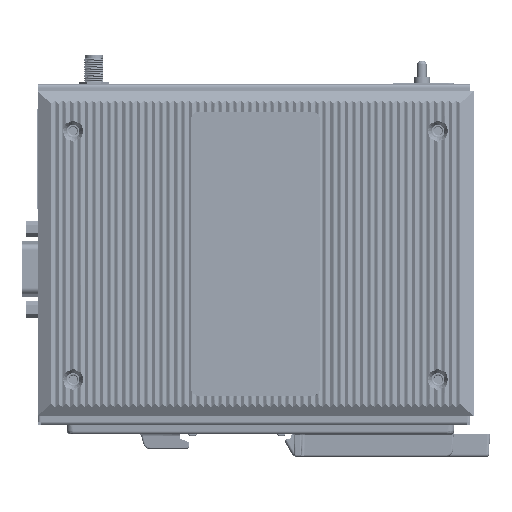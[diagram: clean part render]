
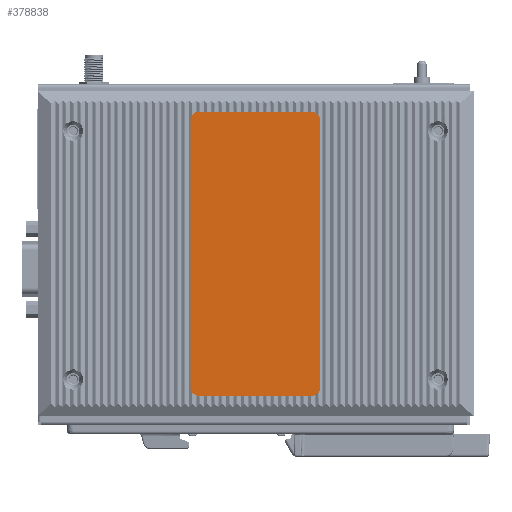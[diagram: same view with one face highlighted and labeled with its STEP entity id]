
A CAD part, front view. The second image highlights one B-rep face of the part: STEP entity #378838.
In plain terms, the highlighted planar face has unit normal (0, -1, 0).
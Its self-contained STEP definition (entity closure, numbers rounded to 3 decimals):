
#372567=DIRECTION('',(0.,0.,1.));
#372568=VECTOR('',#372567,83.);
#372569=CARTESIAN_POINT('',(-17.,-11.44,-43.75));
#372570=LINE('',#372569,#372568);
#372603=CARTESIAN_POINT('',(-14.5,-11.44,39.25));
#372604=DIRECTION('',(0.,-1.,0.));
#372605=DIRECTION('',(0.,0.,1.));
#372606=AXIS2_PLACEMENT_3D('',#372603,#372604,#372605);
#372608=DIRECTION('',(-1.,0.,0.));
#372609=VECTOR('',#372608,34.95);
#372610=CARTESIAN_POINT('',(20.45,-11.44,41.75));
#372611=LINE('',#372610,#372609);
#372612=CARTESIAN_POINT('',(20.45,-11.44,39.2));
#372613=DIRECTION('',(0.,-1.,0.));
#372614=DIRECTION('',(1.,0.,0.));
#372615=AXIS2_PLACEMENT_3D('',#372612,#372613,#372614);
#372617=DIRECTION('',(0.,0.,1.));
#372618=VECTOR('',#372617,82.95);
#372619=CARTESIAN_POINT('',(23.,-11.44,-43.75));
#372620=LINE('',#372619,#372618);
#372621=CARTESIAN_POINT('',(20.5,-11.44,-43.75));
#372622=DIRECTION('',(0.,-1.,0.));
#372623=DIRECTION('',(0.,0.,-1.));
#372624=AXIS2_PLACEMENT_3D('',#372621,#372622,#372623);
#372626=DIRECTION('',(1.,0.,0.));
#372627=VECTOR('',#372626,35.);
#372628=CARTESIAN_POINT('',(-14.5,-11.44,-46.25));
#372629=LINE('',#372628,#372627);
#372630=CARTESIAN_POINT('',(-14.5,-11.44,-43.75));
#372631=DIRECTION('',(0.,-1.,0.));
#372632=DIRECTION('',(-1.,0.,0.));
#372633=AXIS2_PLACEMENT_3D('',#372630,#372631,#372632);
#373569=CARTESIAN_POINT('',(20.45,-11.44,41.75));
#373570=VERTEX_POINT('',#373569);
#373572=CARTESIAN_POINT('',(20.5,-11.44,-46.25));
#373573=VERTEX_POINT('',#373572);
#373621=CARTESIAN_POINT('',(-14.5,-11.44,41.75));
#373622=VERTEX_POINT('',#373621);
#373634=CARTESIAN_POINT('',(-14.5,-11.44,-46.25));
#373635=VERTEX_POINT('',#373634);
#373682=CARTESIAN_POINT('',(23.,-11.44,39.2));
#373683=VERTEX_POINT('',#373682);
#373693=CARTESIAN_POINT('',(23.,-11.44,-43.75));
#373694=VERTEX_POINT('',#373693);
#373724=CARTESIAN_POINT('',(-17.,-11.44,39.25));
#373725=VERTEX_POINT('',#373724);
#373740=CARTESIAN_POINT('',(-17.,-11.44,-43.75));
#373741=VERTEX_POINT('',#373740);
#378823=CARTESIAN_POINT('',(3.,-11.44,-2.25));
#378824=DIRECTION('',(0.,-1.,0.));
#378825=DIRECTION('',(1.,0.,0.));
#378826=AXIS2_PLACEMENT_3D('',#378823,#378824,#378825);
#378827=PLANE('',#378826);
#378828=ORIENTED_EDGE('',*,*,#378801,.T.);
#378829=ORIENTED_EDGE('',*,*,#378816,.F.);
#378830=ORIENTED_EDGE('',*,*,#378407,.F.);
#378831=ORIENTED_EDGE('',*,*,#378657,.F.);
#378832=ORIENTED_EDGE('',*,*,#378675,.F.);
#378833=ORIENTED_EDGE('',*,*,#378693,.F.);
#378834=ORIENTED_EDGE('',*,*,#378769,.F.);
#378835=ORIENTED_EDGE('',*,*,#378785,.F.);
#378836=EDGE_LOOP('',(#378828,#378829,#378830,#378831,#378832,#378833,#378834,
#378835));
#378837=FACE_OUTER_BOUND('',#378836,.F.);
#378838=ADVANCED_FACE('',(#378837),#378827,.T.);
#372607=CIRCLE('',#372606,2.5);
#372616=CIRCLE('',#372615,2.55);
#372625=CIRCLE('',#372624,2.5);
#372634=CIRCLE('',#372633,2.5);
#378407=EDGE_CURVE('',#373570,#373622,#372611,.T.);
#378657=EDGE_CURVE('',#373683,#373570,#372616,.T.);
#378675=EDGE_CURVE('',#373694,#373683,#372620,.T.);
#378693=EDGE_CURVE('',#373573,#373694,#372625,.T.);
#378769=EDGE_CURVE('',#373635,#373573,#372629,.T.);
#378785=EDGE_CURVE('',#373741,#373635,#372634,.T.);
#378801=EDGE_CURVE('',#373741,#373725,#372570,.T.);
#378816=EDGE_CURVE('',#373622,#373725,#372607,.T.);
